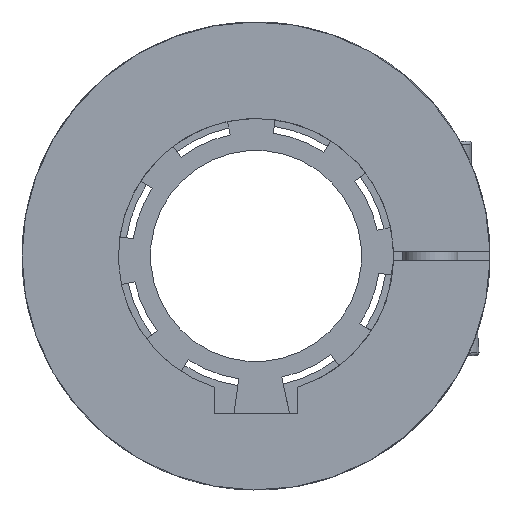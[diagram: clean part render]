
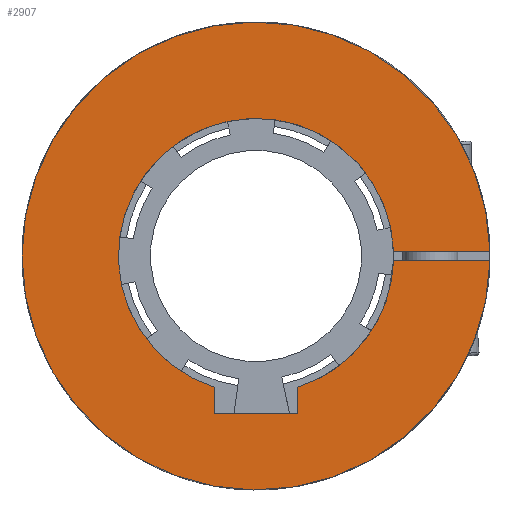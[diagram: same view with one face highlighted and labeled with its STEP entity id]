
A CAD part, left-side view. The second image highlights one B-rep face of the part: STEP entity #2907.
In plain terms, the highlighted planar face has unit normal (-1, 0, 0).
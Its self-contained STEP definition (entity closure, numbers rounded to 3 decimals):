
#95=PLANE('',#3246);
#249=FACE_OUTER_BOUND('',#411,.T.);
#411=EDGE_LOOP('',(#2379,#2380,#2381,#2382,#2383,#2384,#2385,#2386,#2387));
#610=LINE('',#4661,#877);
#613=LINE('',#4667,#880);
#614=LINE('',#4669,#881);
#629=LINE('',#4719,#896);
#646=LINE('',#4882,#913);
#877=VECTOR('',#3750,1.);
#880=VECTOR('',#3755,1.);
#881=VECTOR('',#3758,1.);
#896=VECTOR('',#3811,1000.);
#913=VECTOR('',#3896,1000.);
#1089=CIRCLE('',#3176,30.);
#1092=CIRCLE('',#3179,30.);
#1131=CIRCLE('',#3240,51.);
#1132=CIRCLE('',#3241,51.);
#1298=VERTEX_POINT('',#4611);
#1299=VERTEX_POINT('',#4613);
#1304=VERTEX_POINT('',#4623);
#1305=VERTEX_POINT('',#4625);
#1318=VERTEX_POINT('',#4659);
#1320=VERTEX_POINT('',#4665);
#1336=VERTEX_POINT('',#4718);
#1363=VERTEX_POINT('',#4864);
#1364=VERTEX_POINT('',#4866);
#1639=EDGE_CURVE('',#1299,#1298,#1089,.T.);
#1645=EDGE_CURVE('',#1305,#1304,#1092,.T.);
#1663=EDGE_CURVE('',#1298,#1318,#610,.T.);
#1666=EDGE_CURVE('',#1318,#1320,#613,.T.);
#1667=EDGE_CURVE('',#1320,#1305,#614,.T.);
#1692=EDGE_CURVE('',#1299,#1336,#629,.T.);
#1729=EDGE_CURVE('',#1364,#1363,#1131,.T.);
#1731=EDGE_CURVE('',#1363,#1336,#1132,.T.);
#1738=EDGE_CURVE('',#1364,#1304,#646,.T.);
#2379=ORIENTED_EDGE('',*,*,#1645,.T.);
#2380=ORIENTED_EDGE('',*,*,#1738,.F.);
#2381=ORIENTED_EDGE('',*,*,#1729,.T.);
#2382=ORIENTED_EDGE('',*,*,#1731,.T.);
#2383=ORIENTED_EDGE('',*,*,#1692,.F.);
#2384=ORIENTED_EDGE('',*,*,#1639,.T.);
#2385=ORIENTED_EDGE('',*,*,#1663,.T.);
#2386=ORIENTED_EDGE('',*,*,#1666,.T.);
#2387=ORIENTED_EDGE('',*,*,#1667,.T.);
#2907=ADVANCED_FACE('',(#249),#95,.F.);
#3176=AXIS2_PLACEMENT_3D('',#4614,#3707,#3708);
#3179=AXIS2_PLACEMENT_3D('',#4626,#3716,#3717);
#3240=AXIS2_PLACEMENT_3D('',#4867,#3879,#3880);
#3241=AXIS2_PLACEMENT_3D('',#4869,#3882,#3883);
#3246=AXIS2_PLACEMENT_3D('',#4883,#3897,#3898);
#3707=DIRECTION('center_axis',(1.,0.,0.));
#3708=DIRECTION('ref_axis',(0.,0.,-1.));
#3716=DIRECTION('center_axis',(1.,0.,0.));
#3717=DIRECTION('ref_axis',(0.,0.,-1.));
#3750=DIRECTION('',(0.,0.,-1.));
#3755=DIRECTION('',(0.,1.,0.));
#3758=DIRECTION('',(0.,0.,1.));
#3811=DIRECTION('',(0.,-1.,0.));
#3879=DIRECTION('center_axis',(-1.,0.,0.));
#3880=DIRECTION('ref_axis',(0.,-1.,0.));
#3882=DIRECTION('center_axis',(-1.,0.,0.));
#3883=DIRECTION('ref_axis',(0.,-1.,0.));
#3896=DIRECTION('',(0.,1.,0.));
#3897=DIRECTION('center_axis',(1.,0.,0.));
#3898=DIRECTION('ref_axis',(0.,0.,-1.));
#4611=CARTESIAN_POINT('',(0.,-9.,-28.618));
#4613=CARTESIAN_POINT('',(0.,-29.983,-1.));
#4614=CARTESIAN_POINT('Origin',(0.,0.,0.));
#4623=CARTESIAN_POINT('',(0.,-29.983,1.));
#4625=CARTESIAN_POINT('',(0.,9.,-28.618));
#4626=CARTESIAN_POINT('Origin',(0.,0.,0.));
#4659=CARTESIAN_POINT('',(0.,-9.,-34.4));
#4661=CARTESIAN_POINT('',(0.,-9.,16.9));
#4665=CARTESIAN_POINT('',(0.,9.,-34.4));
#4667=CARTESIAN_POINT('',(0.,0.,-34.4));
#4669=CARTESIAN_POINT('',(0.,9.,16.9));
#4718=CARTESIAN_POINT('',(0.,-50.99,-1.));
#4719=CARTESIAN_POINT('',(0.,29.848,-1.));
#4864=CARTESIAN_POINT('',(0.,51.,0.));
#4866=CARTESIAN_POINT('',(0.,-50.99,1.));
#4867=CARTESIAN_POINT('Origin',(0.,0.,0.));
#4869=CARTESIAN_POINT('Origin',(0.,0.,0.));
#4882=CARTESIAN_POINT('',(0.,29.848,1.));
#4883=CARTESIAN_POINT('Origin',(0.,0.,51.));
